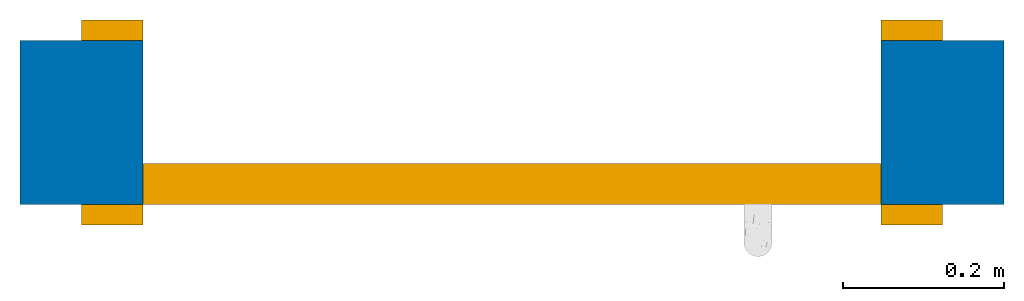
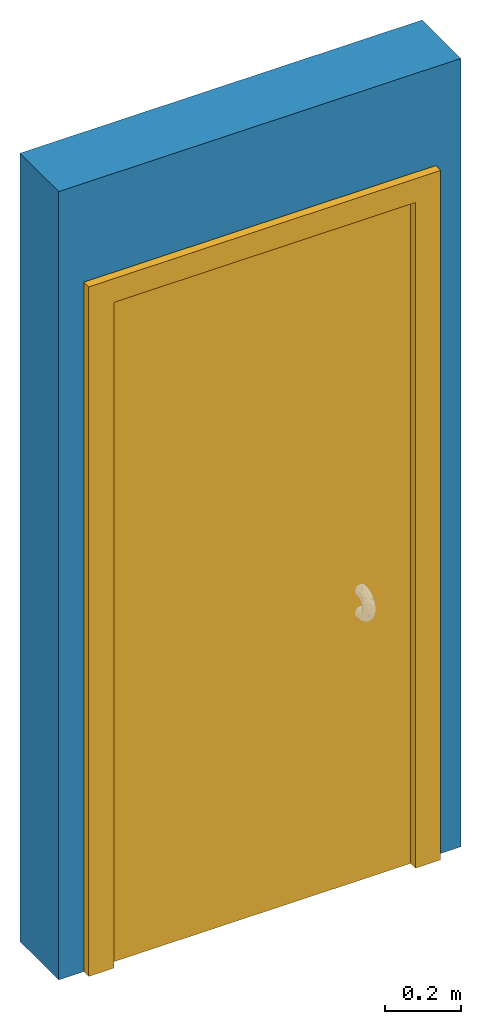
# One storey, incomplete: 1 door, 1 wall, 1 opening.
"""IFC2X3 building model written with IfcOpenShell, lengths in feet."""

import ifcopenshell
import ifcopenshell.guid

model = None  # the IFC model being written
_history = None  # IfcOwnerHistory: only IFC2X3 demands one
_inside = {}  # id of a spatial element -> (the spatial element, [elements in it])
_under = {}  # id of a project, library or spatial element -> (it, [spatial elements below it])
_declared = {}  # id of a project -> (the project, [libraries it declares])
_typed = {}  # id of a type object -> (the type object, [elements of that type])
_made_of = {}  # id of a material, layer set ... -> (it, [elements and type objects made of it])


def new_model(schema):
    """Start an empty IFC model of exactly this schema.

    Asked for "IFC4X3", IfcOpenShell would pick the latest addendum, in which some entities
    have other attributes; the version numbers below select the first issue.
    IFC2X3 requires an IfcOwnerHistory on every rooted entity: one is made here for all.
    """
    global model, _history
    if schema == "IFC4X3":
        model = ifcopenshell.file(schema_version=(4, 3, 0, 0))
    else:
        model = ifcopenshell.file(schema=schema)
    _inside.clear()
    _under.clear()
    _declared.clear()
    _typed.clear()
    _made_of.clear()
    _history = None
    if model.schema == "IFC2X3":
        org = make("IfcOrganization", Name="unknown")
        user = make(
            "IfcPersonAndOrganization",
            ThePerson=make("IfcPerson", FamilyName="unknown"),
            TheOrganization=org,
        )
        app = make(
            "IfcApplication",
            ApplicationDeveloper=org,
            Version="unknown",
            ApplicationFullName="unknown",
            ApplicationIdentifier="unknown",
        )
        _history = make(
            "IfcOwnerHistory",
            OwningUser=user,
            OwningApplication=app,
            ChangeAction="ADDED",
            CreationDate=0,
        )
    return model


def make(cls, **values):
    """One entity of the class cls with the attributes given. An attribute that is None is left unset."""
    return model.create_entity(
        cls, **{name: value for name, value in values.items() if value is not None}
    )


def entity(cls, *values):
    """Any entity or typed value of the class cls, its attributes in the order of the schema. None: left unset."""
    e = model.create_entity(cls)
    for i, value in enumerate(values):
        if value is not None:
            e[i] = value
    return e


def rooted(cls, **values):
    """An entity with a GlobalId (a new one), such as an element, a storey or a relation."""
    return make(cls, GlobalId=ifcopenshell.guid.new(), OwnerHistory=_history, **values)


def si_unit(unit_type, name, prefix=None):
    """IfcSIUnit, for example si_unit("LENGTHUNIT", "METRE", prefix="MILLI")."""
    return make("IfcSIUnit", UnitType=unit_type, Prefix=prefix, Name=name)


def converted_unit(unit_type, name, factor, base, dimensions=None, offset=None):
    """IfcConversionBasedUnit, such as the inch: factor (a typed value) times the base unit."""
    return make(
        "IfcConversionBasedUnit"
        if offset is None
        else "IfcConversionBasedUnitWithOffset",
        ConversionOffset=offset,
        Dimensions=None
        if dimensions is None
        else entity("IfcDimensionalExponents", *dimensions),
        UnitType=unit_type,
        Name=name,
        ConversionFactor=make(
            "IfcMeasureWithUnit", ValueComponent=factor, UnitComponent=base
        ),
    )


def derived_unit(unit_type, elements):
    """IfcDerivedUnit: a product of units, each with its exponent."""
    return make(
        "IfcDerivedUnit",
        Elements=[
            make("IfcDerivedUnitElement", Unit=unit, Exponent=power)
            for unit, power in elements
        ],
        UnitType=unit_type,
    )


def assignment(units):
    """IfcUnitAssignment: the units of a project."""
    return None if units is None else make("IfcUnitAssignment", Units=units)


def point(xyz):
    """IfcCartesianPoint."""
    return None if xyz is None else make("IfcCartesianPoint", Coordinates=xyz)


def direction(xyz):
    """IfcDirection."""
    return None if xyz is None else make("IfcDirection", DirectionRatios=xyz)


def frame(location, z_axis=None, x_axis=None):
    """IfcAxis2Placement3D, a coordinate frame: its origin and axes. An axis left out is left unset."""
    return make(
        "IfcAxis2Placement3D",
        Location=point(location),
        Axis=direction(z_axis),
        RefDirection=direction(x_axis),
    )


def frame_2d(location, x_axis=None):
    """IfcAxis2Placement2D, a coordinate frame in the plane: its origin and x axis."""
    return make(
        "IfcAxis2Placement2D", Location=point(location), RefDirection=direction(x_axis)
    )


def origin():
    """The frame at (0, 0, 0) with its axes left unset."""
    return frame((0.0, 0.0, 0.0))


def place(relative_to, where):
    """IfcLocalPlacement: puts the frame where relative to a parent placement (None: the world)."""
    return make(
        "IfcLocalPlacement", PlacementRelTo=relative_to, RelativePlacement=where
    )


def context(
    kind, dimensions, precision=None, world=None, true_north=None, identifier=None
):
    """IfcGeometricRepresentationContext, for example the 3D "Model" context."""
    return make(
        "IfcGeometricRepresentationContext",
        ContextIdentifier=identifier,
        ContextType=kind,
        CoordinateSpaceDimension=dimensions,
        Precision=precision,
        WorldCoordinateSystem=world,
        TrueNorth=true_north,
    )


def subcontext(parent, identifier, kind, view, scale=None):
    """IfcGeometricRepresentationSubContext, for example "Body" below "Model"."""
    return make(
        "IfcGeometricRepresentationSubContext",
        ContextIdentifier=identifier,
        ContextType=kind,
        ParentContext=parent,
        TargetScale=scale,
        TargetView=view,
    )


def project(units=None, contexts=None):
    """IfcProject with its units and contexts."""
    return rooted(
        "IfcProject",
        Name="project",
        RepresentationContexts=contexts,
        UnitsInContext=assignment(units),
    )


def spatial(cls, under=None, at=None, **own):
    """A site, building, storey or space (cls), placed at a placement, below another one or the project."""
    s = rooted(cls, ObjectPlacement=at, **own)
    if under is not None:
        _under.setdefault(under.id(), (under, []))[1].append(s)
    return s


def polyline(points):
    """IfcPolyline through the points."""
    return make("IfcPolyline", Points=[point(p) for p in points])


def profile(cls, at=None, kind="AREA", **sizes):
    """A parametric profile (cls). Its sizes go by their IFC names, for example OverallWidth=200.0."""
    return make(cls, ProfileType=kind, Position=at, **sizes)


def rectangle(**sizes):
    """IfcRectangleProfileDef."""
    return profile("IfcRectangleProfileDef", **sizes)


def outline(outer, holes=None, kind="AREA"):
    """IfcArbitraryClosedProfileDef: a profile drawn as a closed curve; with holes, ...WithVoids."""
    if holes is None:
        return make("IfcArbitraryClosedProfileDef", ProfileType=kind, OuterCurve=outer)
    return make(
        "IfcArbitraryProfileDefWithVoids",
        ProfileType=kind,
        OuterCurve=outer,
        InnerCurves=holes,
    )


def extrude(swept, where, along, depth):
    """IfcExtrudedAreaSolid: the profile swept, set in the frame where, extruded along a direction by depth."""
    return make(
        "IfcExtrudedAreaSolid",
        SweptArea=swept,
        Position=where,
        ExtrudedDirection=direction(along),
        Depth=depth,
    )


def shape(context_of_items, identifier, shape_type, items):
    """IfcShapeRepresentation: the items that make up one representation, for example the "Body"."""
    return make(
        "IfcShapeRepresentation",
        ContextOfItems=context_of_items,
        RepresentationIdentifier=identifier,
        RepresentationType=shape_type,
        Items=items,
    )


def source(mapping_origin, context_of_items, identifier, shape_type, items):
    """IfcRepresentationMap: a shape defined once, which mapped items show again and again."""
    return make(
        "IfcRepresentationMap",
        MappingOrigin=mapping_origin,
        MappedRepresentation=shape(context_of_items, identifier, shape_type, items),
    )


def transform(
    local_origin,
    x_axis=None,
    y_axis=None,
    z_axis=None,
    scale=None,
    scale2=None,
    scale3=None,
    uniform=True,
):
    """IfcCartesianTransformationOperator3D, or its non-uniform kind. x_axis, y_axis, z_axis: its Axis1, 2, 3."""
    if uniform:
        return make(
            "IfcCartesianTransformationOperator3D",
            Axis1=direction(x_axis),
            Axis2=direction(y_axis),
            LocalOrigin=point(local_origin),
            Scale=scale,
            Axis3=direction(z_axis),
        )
    return make(
        "IfcCartesianTransformationOperator3DnonUniform",
        Axis1=direction(x_axis),
        Axis2=direction(y_axis),
        LocalOrigin=point(local_origin),
        Scale=scale,
        Axis3=direction(z_axis),
        Scale2=scale2,
        Scale3=scale3,
    )


def mapped(mapping_source, mapping_target):
    """IfcMappedItem: shows the shape of a source again, moved by a transform."""
    return make(
        "IfcMappedItem", MappingSource=mapping_source, MappingTarget=mapping_target
    )


def material(Name=None, Category=None):
    """IfcMaterial."""
    return make("IfcMaterial", Name=Name, Category=Category)


def material_list(materials):
    """IfcMaterialList."""
    return make("IfcMaterialList", Materials=materials)


def layer(
    of_material, thickness, ventilated=None, Name=None, Category=None, Priority=None
):
    """IfcMaterialLayer: one layer of a wall or slab, of a material (None: an air gap)."""
    return make(
        "IfcMaterialLayer",
        Material=of_material,
        LayerThickness=thickness,
        IsVentilated=ventilated,
        Name=Name,
        Category=Category,
        Priority=Priority,
    )


def layer_set(layers, Name=None):
    """IfcMaterialLayerSet."""
    return make("IfcMaterialLayerSet", MaterialLayers=layers, LayerSetName=Name)


def layer_usage(for_layer_set, set_direction, sense, offset, extent=None):
    """IfcMaterialLayerSetUsage: how a layer set lies in its element."""
    return make(
        "IfcMaterialLayerSetUsage",
        ForLayerSet=for_layer_set,
        LayerSetDirection=set_direction,
        DirectionSense=sense,
        OffsetFromReferenceLine=offset,
        ReferenceExtent=extent,
    )


def made_of(thing, what):
    """Note that an element or type object is made of a material, layer set ...; save() writes the relation."""
    if what is not None:
        _made_of.setdefault(what.id(), (what, []))[1].append(thing)
    return thing


def type_object(cls, material=None, **own):
    """A type object (cls), such as IfcWallType, which elements share."""
    return made_of(rooted(cls, **own), material)


def type_shapes(of_type, sources):
    """Give a type object the sources (RepresentationMaps) that its elements show as mapped items."""
    of_type.RepresentationMaps = sources


def element(
    cls,
    number,
    at=None,
    inside=None,
    cuts=None,
    type_object=None,
    material=None,
    context=None,
    identifier="Body",
    shape_type=None,
    held_by="IfcProductDefinitionShape",
    body=None,
    shapes=None,
    **own,
):
    """One element of the class cls, such as IfcWall. Its Tag is "e" and its number.

    at: its placement. inside: the storey or other place that contains it. cuts: it is an
    opening in that element (IfcRelVoidsElement). A single representation is given by context,
    identifier, shape_type and body (its items); several are given by shapes. held_by: the class
    of the entity that holds the representations. save() writes the other relations.
    """
    e = rooted(cls, Tag="e%d" % number, ObjectPlacement=at, **own)
    if body is not None:
        shapes = [shape(context, identifier, shape_type, body)]
    if shapes is not None:
        e.Representation = make(held_by, Representations=shapes)
    if inside is not None:
        _inside.setdefault(inside.id(), (inside, []))[1].append(e)
    if cuts is not None:
        rooted(
            "IfcRelVoidsElement", RelatingBuildingElement=cuts, RelatedOpeningElement=e
        )
    if type_object is not None:
        _typed.setdefault(type_object.id(), (type_object, []))[1].append(e)
    return made_of(e, material)


def fill(opening, filler):
    """IfcRelFillsElement: the door or window that sits in an opening."""
    return rooted(
        "IfcRelFillsElement",
        RelatingOpeningElement=opening,
        RelatedBuildingElement=filler,
    )


def aggregate(whole, parts):
    """IfcRelAggregates: a whole, such as a stair, and the parts it consists of."""
    return rooted("IfcRelAggregates", RelatingObject=whole, RelatedObjects=parts)


def save(model, path):
    """Write the relations noted so far, then the file.

    IfcRelAggregates (storeys below a building ...), IfcRelContainedInSpatialStructure (elements
    in a storey), IfcRelDefinesByType, IfcRelAssociatesMaterial and IfcRelDeclares: one each for
    every whole, place, type object, material and project.
    """
    for whole, parts in _under.values():
        aggregate(whole, parts)
    for where, things in _inside.values():
        rooted(
            "IfcRelContainedInSpatialStructure",
            RelatedElements=things,
            RelatingStructure=where,
        )
    for kind, things in _typed.values():
        rooted("IfcRelDefinesByType", RelatedObjects=things, RelatingType=kind)
    for what, things in _made_of.values():
        rooted("IfcRelAssociatesMaterial", RelatedObjects=things, RelatingMaterial=what)
    for by, libraries in _declared.values():
        rooted("IfcRelDeclares", RelatingContext=by, RelatedDefinitions=libraries)
    model.write(path)


model = new_model("IFC2X3")

# Units and contexts
model_context = context("Model", 3, precision=0.0001, world=origin(), true_north=direction((6.12303176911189e-17, 1.0)))
body_context = subcontext(model_context, "Body", "Model", "MODEL_VIEW")
ifc_project = project(units=[converted_unit("LENGTHUNIT", "FOOT", entity("IfcRatioMeasure", 0.3048), si_unit("LENGTHUNIT", "METRE"), dimensions=[1, 0, 0, 0, 0, 0, 0]), converted_unit("AREAUNIT", "SQUARE FOOT", entity("IfcRatioMeasure", 0.09290304), si_unit("AREAUNIT", "SQUARE_METRE"), dimensions=[2, 0, 0, 0, 0, 0, 0]), converted_unit("VOLUMEUNIT", "CUBIC FOOT", entity("IfcRatioMeasure", 0.028316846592), si_unit("VOLUMEUNIT", "CUBIC_METRE"), dimensions=[3, 0, 0, 0, 0, 0, 0]), converted_unit("PLANEANGLEUNIT", "DEGREE", entity("IfcRatioMeasure", 0.0174532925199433), si_unit("PLANEANGLEUNIT", "RADIAN"), dimensions=[0, 0, 0, 0, 0, 0, 0]), si_unit("MASSUNIT", "GRAM", prefix="KILO"), derived_unit("MASSDENSITYUNIT", [(si_unit("MASSUNIT", "GRAM", prefix="KILO"), 1), (si_unit("LENGTHUNIT", "METRE"), -3)]), si_unit("TIMEUNIT", "SECOND"), si_unit("FREQUENCYUNIT", "HERTZ"), si_unit("THERMODYNAMICTEMPERATUREUNIT", "DEGREE_CELSIUS"), derived_unit("THERMALTRANSMITTANCEUNIT", [(si_unit("MASSUNIT", "GRAM", prefix="KILO"), 1), (si_unit("THERMODYNAMICTEMPERATUREUNIT", "KELVIN"), -1), (si_unit("TIMEUNIT", "SECOND"), -3)]), derived_unit("VOLUMETRICFLOWRATEUNIT", [(si_unit("LENGTHUNIT", "METRE"), 3), (si_unit("TIMEUNIT", "SECOND"), -1)]), si_unit("ELECTRICCURRENTUNIT", "AMPERE"), si_unit("ELECTRICVOLTAGEUNIT", "VOLT"), si_unit("POWERUNIT", "WATT"), si_unit("FORCEUNIT", "NEWTON"), si_unit("ILLUMINANCEUNIT", "LUX"), si_unit("LUMINOUSFLUXUNIT", "LUMEN"), si_unit("LUMINOUSINTENSITYUNIT", "CANDELA"), derived_unit("USERDEFINED", [(si_unit("MASSUNIT", "GRAM", prefix="KILO"), -1), (si_unit("LENGTHUNIT", "METRE"), -2), (si_unit("TIMEUNIT", "SECOND"), 3), (si_unit("LUMINOUSFLUXUNIT", "LUMEN"), 1)]), derived_unit("LINEARVELOCITYUNIT", [(si_unit("LENGTHUNIT", "METRE"), 1), (si_unit("TIMEUNIT", "SECOND"), -1)]), si_unit("PRESSUREUNIT", "PASCAL"), derived_unit("USERDEFINED", [(si_unit("LENGTHUNIT", "METRE"), -2), (si_unit("MASSUNIT", "GRAM", prefix="KILO"), 1), (si_unit("TIMEUNIT", "SECOND"), -2)])], contexts=[model_context])

# Site, building, storey
site_placement = place(None, origin())
site = spatial("IfcSite", under=ifc_project, at=site_placement, Name="Default", CompositionType="ELEMENT")
building_placement = place(site_placement, origin())
building = spatial("IfcBuilding", under=site, at=building_placement, CompositionType="ELEMENT")
storey_placement = place(building_placement, origin())
storey = spatial("IfcBuildingStorey", under=building, at=storey_placement, Name="Level 1", CompositionType="ELEMENT", Elevation=0.0)

# Wall, opening, door
ifc_material_1 = material(Name="Default Wall")
ifc_layer = layer(ifc_material_1, 0.666666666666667)
ifc_layer_set = layer_set([ifc_layer], Name="Basic Wall:Generic - 8\"")
ifc_layer_usage = layer_usage(ifc_layer_set, "AXIS2", "NEGATIVE", 0.333333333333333)
wall_type = type_object("IfcWallType", Name="Basic Wall:Generic - 8\"", PredefinedType="STANDARD", material=ifc_layer_set)
wall_placement = place(storey_placement, frame((-2.41533374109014, 5.19518978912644, 0.0)))
wall = element("IfcWallStandardCase", 1, at=wall_placement, inside=storey, type_object=wall_type, material=ifc_layer_usage, Name="Basic Wall:Generic - 8\"", ObjectType="Basic Wall:Generic - 8\"", context=body_context, shape_type="SweptSolid", body=[
    extrude(rectangle(XDim=4.0, YDim=0.666666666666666, at=frame_2d((2.0, 2.77555756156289e-16), x_axis=(-1.0, 0.0))), origin(), (0.0, 0.0, 1.0), 8.28936516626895),
])
opening_placement = place(wall_placement, frame((3.5, 0.333333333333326, 0.0)))
opening = element("IfcOpeningElement", 2, at=opening_placement, cuts=wall, Name="Single-Flush:36\" x 84\":1", ObjectType="Opening", context=body_context, shape_type="SweptSolid", body=[
    extrude(rectangle(XDim=3.0, YDim=7.0, at=frame_2d((3.5, 1.5), x_axis=(0.0, 1.0))), frame((0.0, 0.0, 0.0), z_axis=(0.0, -1.0, 0.0), x_axis=(0.0, 0.0, 1.0)), (0.0, 0.0, 1.0), 0.666666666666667),
])
ifc_material_2 = material(Name="Door - Frame")
ifc_material_3 = material(Name="Door - Panel")
ifc_material_list_1 = material_list([ifc_material_2, ifc_material_3])
ifc_material_list_2 = material_list([ifc_material_2, ifc_material_3])
door_style = type_object("IfcDoorStyle", Name="36\" x 84\"", ConstructionType="NOTDEFINED", OperationType="SINGLE_SWING_RIGHT", ParameterTakesPrecedence=False, Sizeable=False, material=ifc_material_list_2)
shared_shape = source(origin(), body_context, "Body", "SweptSolid", [
    extrude(outline(polyline([(-1.75, -3.6875), (1.75, -3.6875), (1.75, 3.5625), (1.5, 3.5625), (1.5, -3.43750000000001), (-1.5, -3.43750000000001), (-1.5, 3.5625), (-1.75, 3.5625), (-1.75, -3.6875)])), frame((1.5, 0.666666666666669, 3.5625), z_axis=(0.0, 1.0, 0.0), x_axis=(1.0, 0.0, 0.0)), (0.0, 0.0, 1.0), 0.0833333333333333),
    extrude(outline(polyline([(-3.6875, -1.74999999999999), (3.5625, -1.74999999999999), (3.5625, -1.50000000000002), (-3.4375, -1.50000000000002), (-3.4375, 1.50000000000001), (3.5625, 1.50000000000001), (3.5625, 1.75000000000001), (-3.6875, 1.75000000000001), (-3.6875, -1.74999999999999)])), frame((1.50000000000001, -0.0833333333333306, 3.5625), z_axis=(0.0, 1.0, 0.0), x_axis=(0.0, 0.0, -1.0)), (0.0, 0.0, 1.0), 0.0833333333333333),
    extrude(rectangle(XDim=0.166666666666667, YDim=3.0, at=frame_2d((-1.38777878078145e-17, 0.0), x_axis=(1.0, 0.0))), frame((1.5, 0.583333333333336, 0.0), z_axis=(0.0, 0.0, 1.0), x_axis=(0.0, 1.0, 0.0)), (0.0, 0.0, 1.0), 7.0),
])
type_shapes(door_style, [shared_shape])
door_placement = place(opening_placement, frame((0.0, 0.0, 0.0), z_axis=(0.0, 0.0, 1.0), x_axis=(-1.0, 0.0, 0.0)))
door = element("IfcDoor", 3, at=door_placement, inside=storey, type_object=door_style, material=ifc_material_list_1, Name="Single-Flush:36\" x 84\"", ObjectType="Single-Flush:36\" x 84\"", OverallHeight=7.0, OverallWidth=3.0, context=body_context, shape_type="MappedRepresentation", body=[
    mapped(shared_shape, transform((0.0, 0.0, 0.0), scale=1.0)),
])
fill(opening, door)

save(model, "model.ifc")
